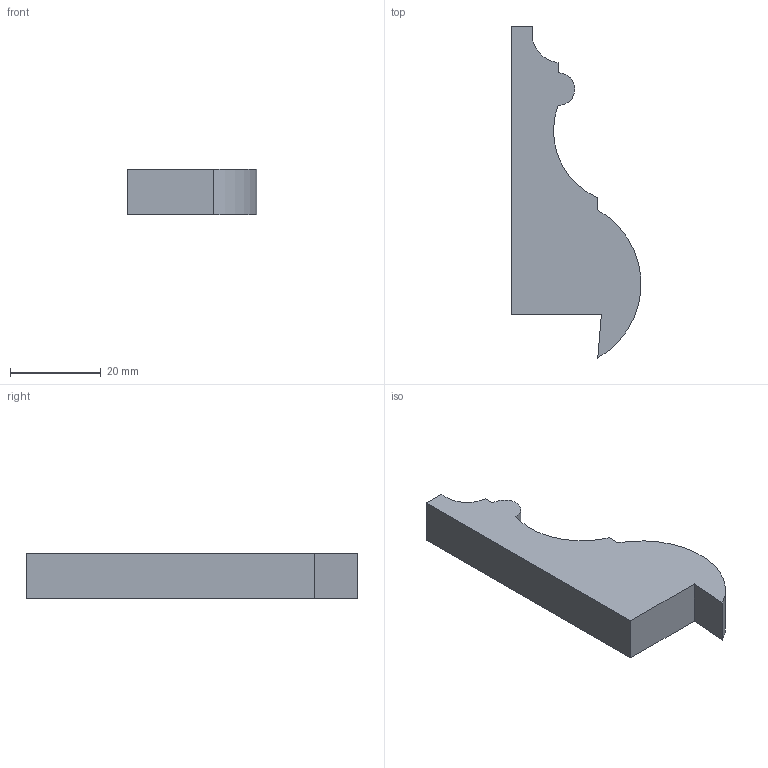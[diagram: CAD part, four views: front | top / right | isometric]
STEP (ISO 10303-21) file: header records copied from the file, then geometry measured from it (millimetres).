
FILE_DESCRIPTION (( 'STEP AP203' ), '1' );
FILE_NAME ('AB023.STEP', '2024-02-16T17:37:53', ( '' ), ( '' ), 'SwSTEP 2.0', 'SolidWorks 2020', '' );
FILE_SCHEMA (( 'CONFIG_CONTROL_DESIGN' ));
Length unit declared in the file: millimetre
Products named in the file (1): AB023
Bounding box: 28.52 x 73.03 x 10 mm (x, y, z)
Volume: 11011.3 mm3; surface area: 4093 mm2
Topology: 1 solids, 1 shells, 12 faces, 30 edges, 20 vertices
Faces by surface type: plane 8, cylinder 4
Entity records: 439 total; most frequent: DIRECTION 64, CARTESIAN_POINT 63, ORIENTED_EDGE 60, EDGE_CURVE 30, LINE 22, VECTOR 22, AXIS2_PLACEMENT_3D 21, VERTEX_POINT 20
